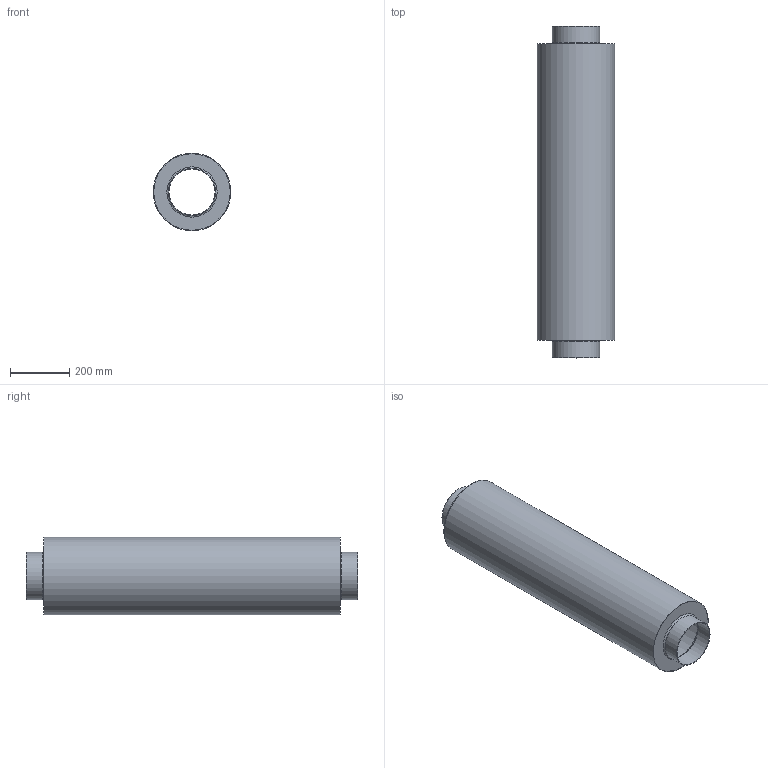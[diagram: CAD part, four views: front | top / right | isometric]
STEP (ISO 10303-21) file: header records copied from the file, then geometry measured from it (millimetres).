
FILE_DESCRIPTION(/* description */ (''),/* implementation_level */ '2;1');
FILE_NAME(/* name */ 'Z:\Output\FSD_160-00678-001.stp',/* time_stamp */ '2017-07-10T15:32:44+02:00',/* author */ ('engineering1'),/* organization */ (''),/* preprocessor_version */ 'ST-DEVELOPER v16.5',/* originating_system */ 'Autodesk Inventor 2017',/* authorisation */ '');
FILE_SCHEMA (('AUTOMOTIVE_DESIGN { 1 0 10303 214 3 1 1 }'));
Length unit declared in the file: millimetre
Products named in the file (1): FSD-1
Bounding box: 262 x 1120 x 262 mm (x, y, z)
Volume: 1880504.2 mm3; surface area: 1882491.8 mm2
Topology: 1 solids, 1 shells, 16 faces, 28 edges, 18 vertices
Faces by surface type: plane 6, cylinder 6, torus 4
Full cylindrical faces by diameter (mm): 155.5 x2, 159.5 x2, 258 x1, 262 x1
Entity records: 381 total; most frequent: DIRECTION 66, CARTESIAN_POINT 49, AXIS2_PLACEMENT_3D 33, EDGE_LOOP 32, ORIENTED_EDGE 32, STYLED_ITEM 17, FACE_BOUND 16, FACE_OUTER_BOUND 16
